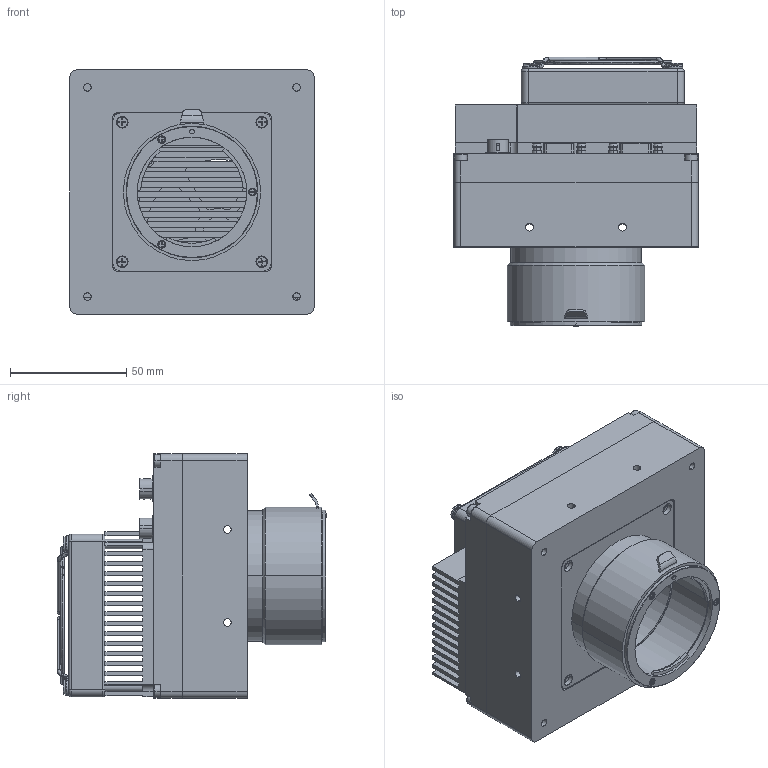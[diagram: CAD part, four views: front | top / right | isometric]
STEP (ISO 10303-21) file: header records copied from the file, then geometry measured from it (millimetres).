
FILE_DESCRIPTION (( 'STEP AP203' ), '1' );
FILE_NAME ('TTS71MCL-4M-A01-V1.2.0-三维模型.STEP', '2022-08-17T10:32:48', ( '微软用户' ), ( '微软中国' ), 'SwSTEP 2.0', 'SolidWorks 2017', '' );
FILE_SCHEMA (( 'CONFIG_CONTROL_DESIGN' ));
Length unit declared in the file: millimetre
Products named in the file (1): TTS71MCL-4M-A01-V1.2.0-三维模型
Bounding box: 105 x 115.84 x 105 mm (x, y, z)
Surface area: 132440.6 mm2 (no closed solid volume)
Topology: 0 solids, 67 shells, 906 faces, 3260 edges, 2368 vertices
Faces by surface type: plane 440, cylinder 315, bspline 78, cone 48, torus 16, sphere 9
Entity records: 38306 total; most frequent: CARTESIAN_POINT 11049, DIRECTION 5611, ORIENTED_EDGE 5092, EDGE_CURVE 3233, VERTEX_POINT 2358, VECTOR 2023, LINE 2023, AXIS2_PLACEMENT_3D 1794
